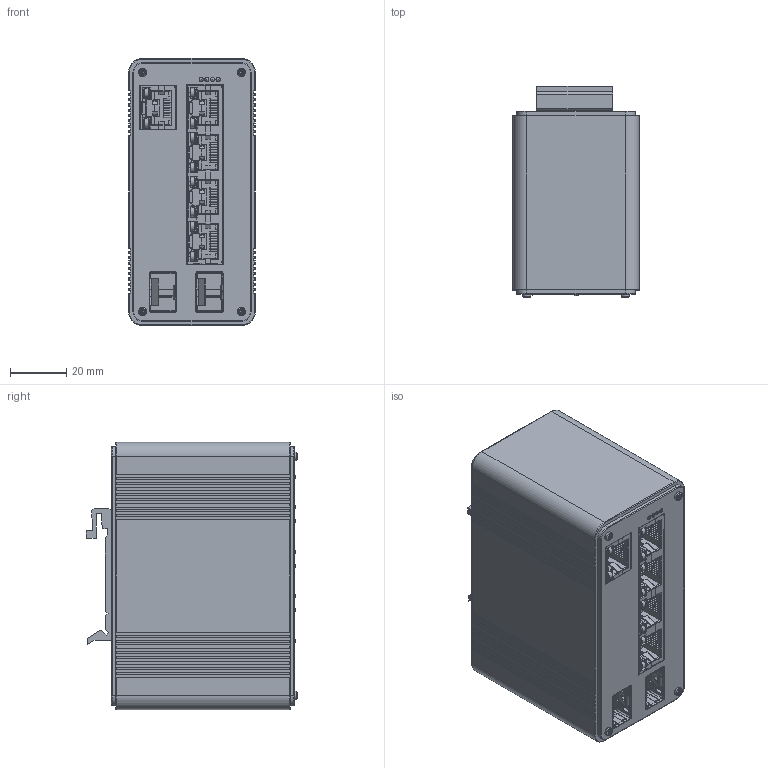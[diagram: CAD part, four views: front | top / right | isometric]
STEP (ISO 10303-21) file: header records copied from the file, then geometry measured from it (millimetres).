
FILE_DESCRIPTION(/* description */ (''),/* implementation_level */ '2;1');
FILE_NAME(/* name */ 'IS-UM-0402-0001 v1.step',/* time_stamp */ '2024-09-18T10:54:25+02:00',/* author */ (''),/* organization */ (''),/* preprocessor_version */ 'ST-DEVELOPER v20',/* originating_system */ 'Autodesk Translation Framework v13.14.0.145',/* authorisation */ '');
FILE_SCHEMA (('AUTOMOTIVE_DESIGN { 1 0 10303 214 3 1 1 }'));
Products named in the file (7): IS-UM-0402-0001; Ethernet Port; ethernet 1 ports; SFP SLOT; LED; Screw; Digitus_DN-651107_LAN-Switch 27mm
Assembly tree (13 placements, depth 2):
  IS-UM-0402-0001
    Ethernet Port
    ethernet 1 ports
    SFP SLOT  x2
    LED  x4
    Screw  x4
    Digitus_DN-651107_LAN-Switch 27mm
Bounding box: 45 x 75.01 x 95 mm (x, y, z)
Volume: 36868.9 mm3; surface area: 80336.9 mm2
Topology: 144 solids, 144 shells, 4255 faces, 11906 edges, 7807 vertices
Faces by surface type: plane 3213, cylinder 930, cone 64, bspline 24, torus 20, sphere 4
Full cylindrical faces by diameter (mm): 0.55 x58, 1.343 x4, 1.5 x8, 1.68 x4, 1.7 x4, 2 x24, 3 x4, 3.202 x10
Entity records: 114558 total; most frequent: CARTESIAN_POINT 21325, ORIENTED_EDGE 19718, DIRECTION 18295, EDGE_CURVE 9859, LINE 8129, VECTOR 8129, VERTEX_POINT 6470, AXIS2_PLACEMENT_3D 5083
